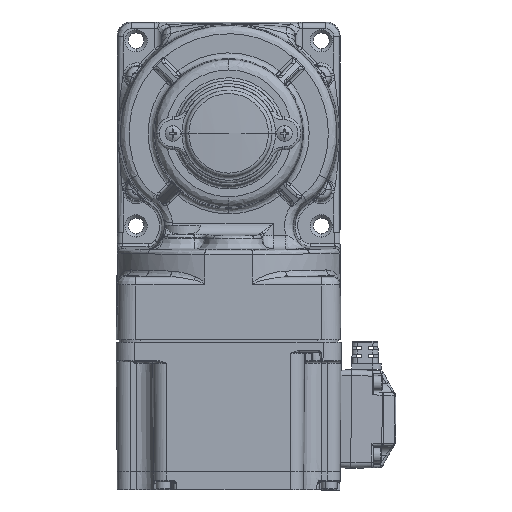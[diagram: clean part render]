
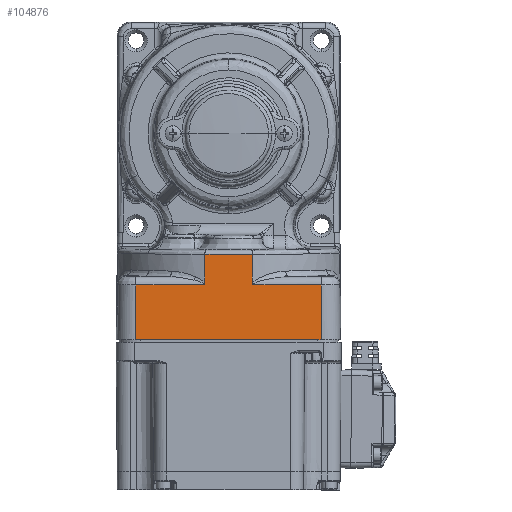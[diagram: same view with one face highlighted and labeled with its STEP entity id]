
A CAD part, left-side view. The second image highlights one B-rep face of the part: STEP entity #104876.
In plain terms, the highlighted planar face has unit normal (-1, 0, 0) as drawn and (0, 1, 0) by its records, which use the part's own axes.
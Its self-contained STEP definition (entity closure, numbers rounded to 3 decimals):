
#270 = LINE ( 'NONE', #9238, #102716 ) ;
#695 = VERTEX_POINT ( 'NONE', #58548 ) ;
#2881 = B_SPLINE_CURVE_WITH_KNOTS ( 'NONE', 3,
 ( #35538, #5570, #33014, #113496 ),
 .UNSPECIFIED., .F., .F.,
 ( 4, 4 ),
 ( 0., 1. ),
 .UNSPECIFIED. ) ;
#3344 = CARTESIAN_POINT ( 'NONE',  ( 8.5, -40., 31.549 ) ) ;
#5570 = CARTESIAN_POINT ( 'NONE',  ( -2.833, -40., 31.549 ) ) ;
#7549 = CARTESIAN_POINT ( 'NONE',  ( 33.506, -40., 1. ) ) ;
#7684 = CARTESIAN_POINT ( 'NONE',  ( -8.5, -40., 21.152 ) ) ;
#8483 = ORIENTED_EDGE ( 'NONE', *, *, #51120, .T. ) ;
#8534 = VECTOR ( 'NONE', #112609, 1000. ) ;
#9238 = CARTESIAN_POINT ( 'NONE',  ( 8.5, -40., 115. ) ) ;
#11444 = DIRECTION ( 'NONE',  ( 1., 0., 0. ) ) ;
#12350 = CARTESIAN_POINT ( 'NONE',  ( 8.5, -40., 21.238 ) ) ;
#12922 = ORIENTED_EDGE ( 'NONE', *, *, #109777, .T. ) ;
#13259 = CARTESIAN_POINT ( 'NONE',  ( 8.533, -40., 20.943 ) ) ;
#13546 = ORIENTED_EDGE ( 'NONE', *, *, #103610, .T. ) ;
#14510 = CARTESIAN_POINT ( 'NONE',  ( -30.733, -40., 265.802 ) ) ;
#16588 = CARTESIAN_POINT ( 'NONE',  ( -8.521, -40., 20.997 ) ) ;
#18842 = VERTEX_POINT ( 'NONE', #80402 ) ;
#18999 = DIRECTION ( 'NONE',  ( 0.01, 0., -1. ) ) ;
#21588 = CARTESIAN_POINT ( 'NONE',  ( 8.523, -40., 20.985 ) ) ;
#23132 = EDGE_CURVE ( 'NONE', #18842, #77025, #75877, .T. ) ;
#26179 = CARTESIAN_POINT ( 'NONE',  ( -8.552, -40., 20.875 ) ) ;
#26474 = VECTOR ( 'NONE', #18999, 1000. ) ;
#26622 = LINE ( 'NONE', #95003, #92490 ) ;
#28074 = CARTESIAN_POINT ( 'NONE',  ( -8.647, -40., 20.664 ) ) ;
#28693 = CARTESIAN_POINT ( 'NONE',  ( -8.59, -40., 20.768 ) ) ;
#29247 = CARTESIAN_POINT ( 'NONE',  ( -8.5, -40., 21.236 ) ) ;
#30544 = CARTESIAN_POINT ( 'NONE',  ( 8.582, -40., 20.77 ) ) ;
#31445 = ORIENTED_EDGE ( 'NONE', *, *, #23132, .T. ) ;
#31841 = CARTESIAN_POINT ( 'NONE',  ( 40.4, -40., 115. ) ) ;
#33014 = CARTESIAN_POINT ( 'NONE',  ( 2.833, -40., 31.549 ) ) ;
#34035 = CARTESIAN_POINT ( 'NONE',  ( -8.5, -40., 21.236 ) ) ;
#35538 = CARTESIAN_POINT ( 'NONE',  ( -8.5, -40., 31.549 ) ) ;
#36227 = DIRECTION ( 'NONE',  ( 0.01, 0., 1. ) ) ;
#36992 = CARTESIAN_POINT ( 'NONE',  ( -8.629, -40., 20.693 ) ) ;
#38269 = CARTESIAN_POINT ( 'NONE',  ( -8.611, -40., 20.726 ) ) ;
#41946 = VERTEX_POINT ( 'NONE', #12350 ) ;
#45388 = VERTEX_POINT ( 'NONE', #98276 ) ;
#45524 = CARTESIAN_POINT ( 'NONE',  ( 40.4, -40., 1. ) ) ;
#46593 = CARTESIAN_POINT ( 'NONE',  ( -8.5, -40., 21.236 ) ) ;
#47738 = CARTESIAN_POINT ( 'NONE',  ( 30.733, -40., 265.802 ) ) ;
#48133 = B_SPLINE_CURVE_WITH_KNOTS ( 'NONE', 3,
 ( #84951, #77262, #65785, #28074, #125759, #113706, #36992, #38269, #28693, #123250, #123886, #74744, #93911, #26179, #104760, #116191, #65142, #75998, #104112, #16588, #56196, #95190, #7684, #46593 ),
 .UNSPECIFIED., .F., .F.,
 ( 4, 1, 1, 2, 2, 1, 1, 1, 2, 2, 1, 1, 1, 2, 2, 4 ),
 ( 0., 0.125, 0.187, 0.219, 0.25, 0.375, 0.437, 0.469, 0.484, 0.5, 0.625, 0.687, 0.719, 0.734, 0.75, 1. ),
 .UNSPECIFIED. ) ;
#48609 = EDGE_CURVE ( 'NONE', #83955, #695, #26622, .T. ) ;
#49654 = DIRECTION ( 'NONE',  ( 0., 0., 1. ) ) ;
#50440 = CARTESIAN_POINT ( 'NONE',  ( -33.506, -40., 1. ) ) ;
#51120 = EDGE_CURVE ( 'NONE', #77025, #78612, #104945, .T. ) ;
#51615 = PLANE ( 'NONE',  #94825 ) ;
#56196 = CARTESIAN_POINT ( 'NONE',  ( -8.521, -40., 20.997 ) ) ;
#58548 = CARTESIAN_POINT ( 'NONE',  ( -8.708, -40., 20.578 ) ) ;
#59335 = CARTESIAN_POINT ( 'NONE',  ( 8.708, -40., 20.578 ) ) ;
#60414 = VECTOR ( 'NONE', #36227, 1000. ) ;
#61161 = CARTESIAN_POINT ( 'NONE',  ( 8.543, -40., 20.904 ) ) ;
#65142 = CARTESIAN_POINT ( 'NONE',  ( -8.527, -40., 20.967 ) ) ;
#65785 = CARTESIAN_POINT ( 'NONE',  ( -8.67, -40., 20.628 ) ) ;
#67555 = LINE ( 'NONE', #29247, #83943 ) ;
#67723 = VERTEX_POINT ( 'NONE', #34035 ) ;
#70661 = ORIENTED_EDGE ( 'NONE', *, *, #48609, .T. ) ;
#70760 = CARTESIAN_POINT ( 'NONE',  ( 8.708, -40., 20.578 ) ) ;
#71698 = VERTEX_POINT ( 'NONE', #3344 ) ;
#74744 = CARTESIAN_POINT ( 'NONE',  ( -8.556, -40., 20.861 ) ) ;
#75877 = LINE ( 'NONE', #47738, #26474 ) ;
#75998 = CARTESIAN_POINT ( 'NONE',  ( -8.523, -40., 20.984 ) ) ;
#77025 = VERTEX_POINT ( 'NONE', #7549 ) ;
#77036 = CARTESIAN_POINT ( 'NONE',  ( -33.301, -40., 20.578 ) ) ;
#77262 = CARTESIAN_POINT ( 'NONE',  ( -8.692, -40., 20.598 ) ) ;
#78612 = VERTEX_POINT ( 'NONE', #50440 ) ;
#78928 = EDGE_CURVE ( 'NONE', #67723, #45388, #67555, .T. ) ;
#79330 = EDGE_CURVE ( 'NONE', #97816, #18842, #121299, .T. ) ;
#79854 = VECTOR ( 'NONE', #111125, 1000. ) ;
#80402 = CARTESIAN_POINT ( 'NONE',  ( 33.301, -40., 20.578 ) ) ;
#81577 = CARTESIAN_POINT ( 'NONE',  ( 8.5, -40., 21.175 ) ) ;
#81789 = B_SPLINE_CURVE_WITH_KNOTS ( 'NONE', 3,
 ( #109105, #81577, #90565, #21588, #13259, #118653, #61161, #30544, #100111, #70760 ),
 .UNSPECIFIED., .F., .F.,
 ( 4, 1, 1, 2, 2, 4 ),
 ( 0., 0.25, 0.375, 0.437, 0.5, 1. ),
 .UNSPECIFIED. ) ;
#83943 = VECTOR ( 'NONE', #49654, 1000. ) ;
#83955 = VERTEX_POINT ( 'NONE', #77036 ) ;
#84951 = CARTESIAN_POINT ( 'NONE',  ( -8.708, -40., 20.578 ) ) ;
#85403 = DIRECTION ( 'NONE',  ( 1., 0., 0. ) ) ;
#90565 = CARTESIAN_POINT ( 'NONE',  ( 8.506, -40., 21.085 ) ) ;
#92490 = VECTOR ( 'NONE', #85403, 1000. ) ;
#92589 = CARTESIAN_POINT ( 'NONE',  ( 40.4, -40., 20.578 ) ) ;
#93911 = CARTESIAN_POINT ( 'NONE',  ( -8.553, -40., 20.869 ) ) ;
#94234 = EDGE_CURVE ( 'NONE', #695, #67723, #48133, .T. ) ;
#94825 = AXIS2_PLACEMENT_3D ( 'NONE', #31841, #118078, #11444 ) ;
#95003 = CARTESIAN_POINT ( 'NONE',  ( 40.4, -40., 20.578 ) ) ;
#95190 = CARTESIAN_POINT ( 'NONE',  ( -8.507, -40., 21.073 ) ) ;
#95514 = ORIENTED_EDGE ( 'NONE', *, *, #114674, .T. ) ;
#97816 = VERTEX_POINT ( 'NONE', #59335 ) ;
#97989 = ORIENTED_EDGE ( 'NONE', *, *, #94234, .T. ) ;
#98276 = CARTESIAN_POINT ( 'NONE',  ( -8.5, -40., 31.549 ) ) ;
#99539 = FACE_OUTER_BOUND ( 'NONE', #102022, .T. ) ;
#100111 = CARTESIAN_POINT ( 'NONE',  ( 8.635, -40., 20.667 ) ) ;
#102022 = EDGE_LOOP ( 'NONE', ( #12922, #70661, #97989, #105984, #95514, #13546, #113914, #103250, #31445, #8483 ) ) ;
#102028 = LINE ( 'NONE', #14510, #60414 ) ;
#102716 = VECTOR ( 'NONE', #125429, 1000. ) ;
#103250 = ORIENTED_EDGE ( 'NONE', *, *, #79330, .T. ) ;
#103610 = EDGE_CURVE ( 'NONE', #71698, #41946, #270, .T. ) ;
#104112 = CARTESIAN_POINT ( 'NONE',  ( -8.522, -40., 20.992 ) ) ;
#104760 = CARTESIAN_POINT ( 'NONE',  ( -8.544, -40., 20.899 ) ) ;
#104876 = ADVANCED_FACE ( 'NONE', ( #99539 ), #51615, .T. ) ;
#104945 = LINE ( 'NONE', #45524, #8534 ) ;
#105984 = ORIENTED_EDGE ( 'NONE', *, *, #78928, .T. ) ;
#109105 = CARTESIAN_POINT ( 'NONE',  ( 8.5, -40., 21.238 ) ) ;
#109777 = EDGE_CURVE ( 'NONE', #78612, #83955, #102028, .T. ) ;
#111125 = DIRECTION ( 'NONE',  ( 1., 0., 0. ) ) ;
#112609 = DIRECTION ( 'NONE',  ( -1., 0., 0. ) ) ;
#113496 = CARTESIAN_POINT ( 'NONE',  ( 8.5, -40., 31.549 ) ) ;
#113706 = CARTESIAN_POINT ( 'NONE',  ( -8.631, -40., 20.689 ) ) ;
#113914 = ORIENTED_EDGE ( 'NONE', *, *, #115528, .T. ) ;
#114674 = EDGE_CURVE ( 'NONE', #45388, #71698, #2881, .T. ) ;
#115528 = EDGE_CURVE ( 'NONE', #41946, #97816, #81789, .T. ) ;
#116191 = CARTESIAN_POINT ( 'NONE',  ( -8.535, -40., 20.931 ) ) ;
#118078 = DIRECTION ( 'NONE',  ( 0., 1., 0. ) ) ;
#118653 = CARTESIAN_POINT ( 'NONE',  ( 8.54, -40., 20.916 ) ) ;
#121299 = LINE ( 'NONE', #92589, #79854 ) ;
#123250 = CARTESIAN_POINT ( 'NONE',  ( -8.569, -40., 20.821 ) ) ;
#123886 = CARTESIAN_POINT ( 'NONE',  ( -8.56, -40., 20.849 ) ) ;
#125429 = DIRECTION ( 'NONE',  ( 0., 0., -1. ) ) ;
#125759 = CARTESIAN_POINT ( 'NONE',  ( -8.637, -40., 20.679 ) ) ;
